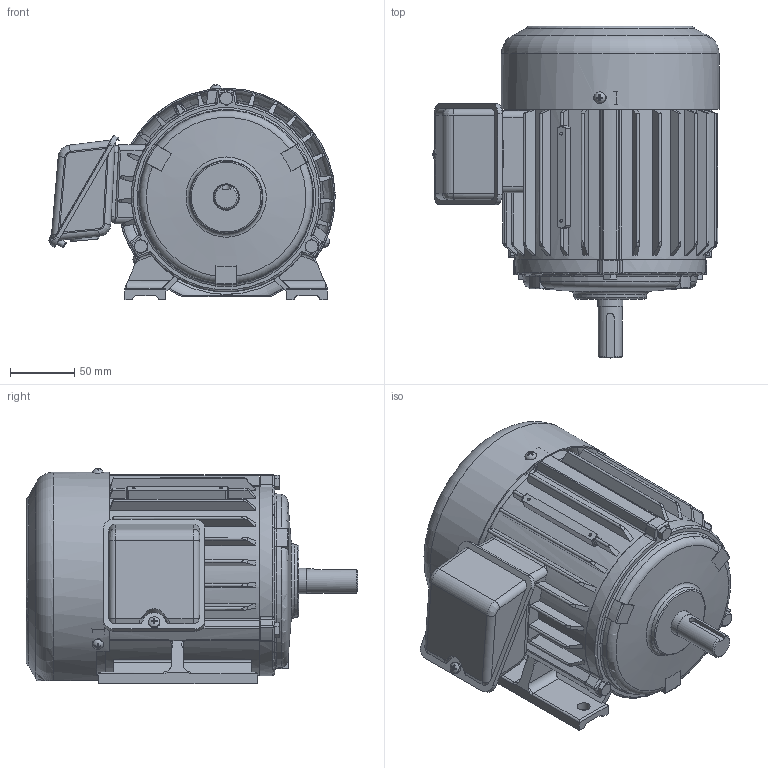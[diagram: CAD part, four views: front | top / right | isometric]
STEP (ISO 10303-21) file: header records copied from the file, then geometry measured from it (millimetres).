
FILE_DESCRIPTION(/* description */ ('Unknown'),/* implementation_level */ '2;1');
FILE_NAME(/* name */ '1-SMA-31976_외형도(140DIA)',/* time_stamp */ '2026-07-24T08:11:44+09:00',/* author */ ('Unknown'),/* organization */ ('Unknown'),/* preprocessor_version */ 'ST-DEVELOPER v16',/* originating_system */ 'DEX',/* authorisation */ $);
FILE_SCHEMA (('AUTOMOTIVE_DESIGN {1 0 10303 214 3 1 1}'));
Length unit declared in the file: millimetre
Products named in the file (22): 1-SMA-31976_寇屈档(140DI; 2-SMA-30845_FRAME(140DIA); 3-SMA-30846_擅粽塭鰍(140D; 4-SMA-30847_µÚºê¶óÄÏ(140D´¾|·Ï(; 5-SMA-30848_SHAFT(140DIA); 7-SMA-30642_FAN COVER(140DIA); 幫陝 M6x1x25L_mi; SMA33038,33039_攪嘐割 ; 8-SMA-33038_T-BOX(鼻)(120,140DIA); 9-SMA-33039_T-BOX(ﾇﾏ)(120~140DIA)ﾓsﾅ; T-BOX 憶っ(120~160DIA; T-BOX 歜衛 馨檜綰斜楠萄(120~傽(; 褊濠 菅斬 該葬 獐お M5x; ｵﾕｱﾙ ｽﾊﾀﾚ M5x0.8x惘ﾄ; 幫陝 M6x1x251; 6-SMA-31241_FAN(120DIA~140DIA); SMA-31378_ROTOR; SMA-31507_ST CORE(140DIA); SMA-31507_RT CORE(140DIA); 蹴辨 S1; 6204ZZ; 6203ZZ
Assembly tree (28 placements, depth 3):
  1-SMA-31976_寇屈档(140DI
    2-SMA-30845_FRAME(140DIA)
    3-SMA-30846_擅粽塭鰍(140D
    4-SMA-30847_µÚºê¶óÄÏ(140D´¾|·Ï(
    5-SMA-30848_SHAFT(140DIA)
    7-SMA-30642_FAN COVER(140DIA)
    幫陝 M6x1x25L_mi  x3
    SMA33038,33039_攪嘐割 
      8-SMA-33038_T-BOX(鼻)(120,140DIA)
      9-SMA-33039_T-BOX(ﾇﾏ)(120~140DIA)ﾓsﾅ
      T-BOX 憶っ(120~160DIA
      T-BOX 歜衛 馨檜綰斜楠萄(120~傽(
      褊濠 菅斬 該葬 獐お M5x
    ｵﾕｱﾙ ｽﾊﾀﾚ M5x0.8x惘ﾄ  x3
    幫陝 M6x1x251  x3
    6-SMA-31241_FAN(120DIA~140DIA)
    SMA-31378_ROTOR  x2
    SMA-31507_ST CORE(140DIA)
    SMA-31507_RT CORE(140DIA)
    蹴辨 S1
    6204ZZ
    6203ZZ
Bounding box: 223.39 x 259 x 167.89 mm (x, y, z)
Volume: 1705793.3 mm3; surface area: 781606.8 mm2
Topology: 49 solids, 49 shells, 2272 faces, 6028 edges, 3847 vertices
Faces by surface type: plane 981, cylinder 674, cone 286, torus 233, bspline 62, sphere 36
Full cylindrical faces by diameter (mm): 1.7 x2, 2.2 x2, 4.134 x7, 4.917 x12, 5 x11, 6 x17, 8 x6, 9 x1, 10 x4, 14.1 x1, 14.2 x1, 16.8 x1, 17 x2, 17.6 x1, 19 x1, 19.8 x1, 20 x3, 20.1 x1, 20.6 x1, 22 x2, 23 x1, 23.571 x2, 23.971 x2, 27.714 x2, 28.114 x2, 29 x2, 33 x2, 33.029 x2, 33.429 x2, 34 x1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
Entity records: 84106 total; most frequent: CARTESIAN_POINT 29267, ORIENTED_EDGE 10504, DIRECTION 10456, EDGE_CURVE 5252, AXIS2_PLACEMENT_3D 3876, VERTEX_POINT 3490, LINE 2704, VECTOR 2704
